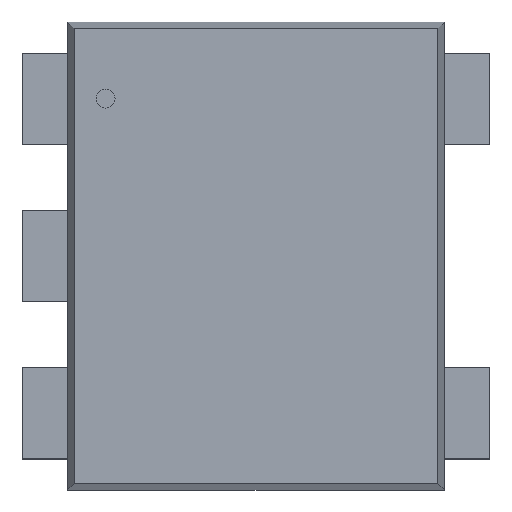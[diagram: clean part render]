
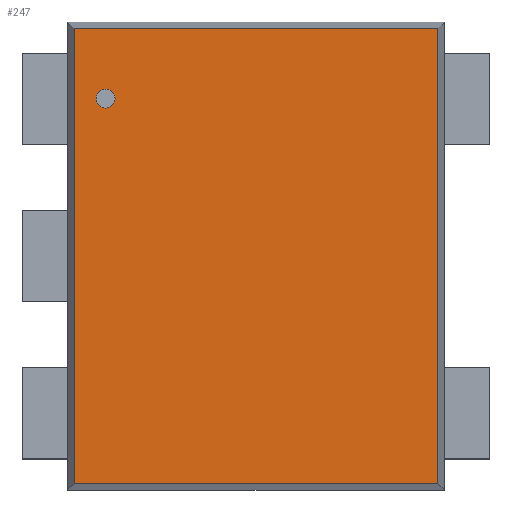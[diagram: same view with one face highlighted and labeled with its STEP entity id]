
A CAD part, top view. The second image highlights one B-rep face of the part: STEP entity #247.
In plain terms, the highlighted planar face has unit normal (0, 0, 1).
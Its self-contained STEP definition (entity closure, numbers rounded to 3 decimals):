
#247=ADVANCED_FACE('',(#253),#248,.T.);
#248=PLANE('',#249);
#249=AXIS2_PLACEMENT_3D('',#250,#251,#252);
#250=CARTESIAN_POINT('',(-0.405,-0.507,0.406));
#251=DIRECTION('',(0.0,0.0,1.0));
#252=DIRECTION('',(0.,1.,0.));
#253=FACE_OUTER_BOUND('',#254,.T.);
#254=EDGE_LOOP('',(#255,#265,#275,#285));
#258=CARTESIAN_POINT('',(0.405,-0.507,0.406));
#257=VERTEX_POINT('',#258);
#260=CARTESIAN_POINT('',(-0.405,-0.507,0.406));
#259=VERTEX_POINT('',#260);
#256=EDGE_CURVE('',#257,#259,#261,.T.);
#261=LINE('',#258,#263);
#263=VECTOR('',#264,0.81);
#264=DIRECTION('',(-1.0,0.0,0.0));
#255=ORIENTED_EDGE('',*,*,#256,.F.);
#268=CARTESIAN_POINT('',(0.405,0.507,0.406));
#267=VERTEX_POINT('',#268);
#266=EDGE_CURVE('',#267,#257,#271,.T.);
#271=LINE('',#268,#273);
#273=VECTOR('',#274,1.014);
#274=DIRECTION('',(0.0,-1.0,0.0));
#265=ORIENTED_EDGE('',*,*,#266,.F.);
#278=CARTESIAN_POINT('',(-0.405,0.507,0.406));
#277=VERTEX_POINT('',#278);
#276=EDGE_CURVE('',#277,#267,#281,.T.);
#281=LINE('',#278,#283);
#283=VECTOR('',#284,0.81);
#284=DIRECTION('',(1.0,0.0,0.0));
#275=ORIENTED_EDGE('',*,*,#276,.F.);
#286=EDGE_CURVE('',#259,#277,#291,.T.);
#291=LINE('',#260,#293);
#293=VECTOR('',#294,1.014);
#294=DIRECTION('',(0.0,1.0,0.0));
#285=ORIENTED_EDGE('',*,*,#286,.F.);
